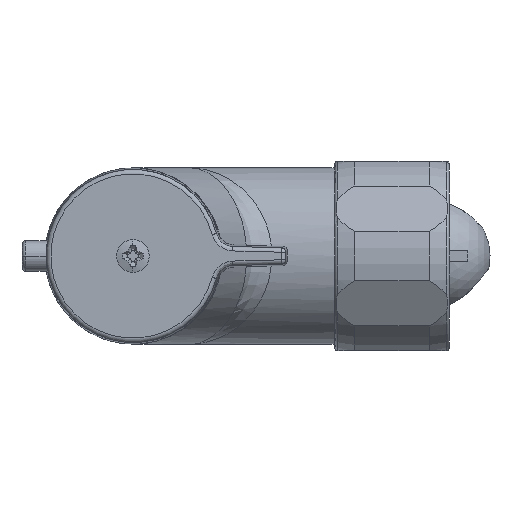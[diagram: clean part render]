
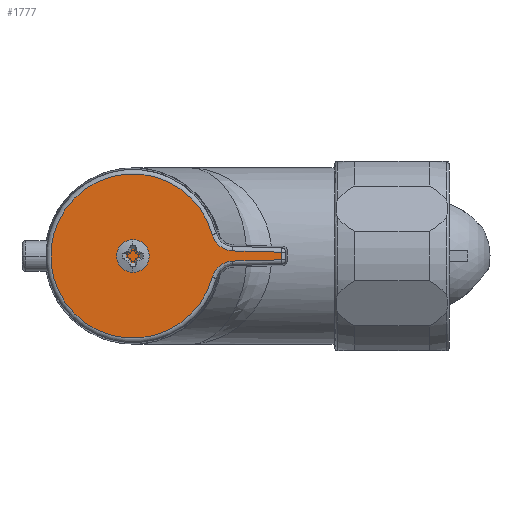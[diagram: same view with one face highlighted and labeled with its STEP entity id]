
A CAD part, left-side view. The second image highlights one B-rep face of the part: STEP entity #1777.
In plain terms, the highlighted planar face has unit normal (-1, 0, 0).
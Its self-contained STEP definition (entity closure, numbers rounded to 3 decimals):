
#1225=DIRECTION('',(0.,-1.,0.026));
#1226=VECTOR('',#1225,10.999);
#1227=CARTESIAN_POINT('',(-82.1,-22.683,
-1.151));
#1228=LINE('',#1227,#1226);
#1229=CARTESIAN_POINT('',(-82.1,-17.987,
-4.847));
#1230=CARTESIAN_POINT('',(-82.1,-18.055,
-4.594));
#1231=CARTESIAN_POINT('',(-82.1,-18.23,
-4.101));
#1232=CARTESIAN_POINT('',(-82.1,-18.615,
-3.395));
#1233=CARTESIAN_POINT('',(-82.1,-19.112,
-2.756));
#1234=CARTESIAN_POINT('',(-82.1,-19.708,
-2.203));
#1235=CARTESIAN_POINT('',(-82.1,-20.385,
-1.754));
#1236=CARTESIAN_POINT('',(-82.1,-21.123,
-1.421));
#1237=CARTESIAN_POINT('',(-82.1,-21.899,
-1.212));
#1238=CARTESIAN_POINT('',(-82.1,-22.42,
-1.158));
#1239=CARTESIAN_POINT('',(-82.1,-22.683,
-1.151));
#1241=CARTESIAN_POINT('',(-82.1,0.,0.));
#1242=DIRECTION('',(-1.,0.,0.));
#1243=DIRECTION('',(0.,-0.966,0.26));
#1244=AXIS2_PLACEMENT_3D('',#1241,#1242,#1243);
#1246=CARTESIAN_POINT('',(-82.1,-22.683,
1.151));
#1247=CARTESIAN_POINT('',(-82.1,-22.42,
1.158));
#1248=CARTESIAN_POINT('',(-82.1,-21.899,
1.212));
#1249=CARTESIAN_POINT('',(-82.1,-21.123,
1.421));
#1250=CARTESIAN_POINT('',(-82.1,-20.385,
1.754));
#1251=CARTESIAN_POINT('',(-82.1,-19.708,
2.203));
#1252=CARTESIAN_POINT('',(-82.1,-19.112,
2.756));
#1253=CARTESIAN_POINT('',(-82.1,-18.615,
3.395));
#1254=CARTESIAN_POINT('',(-82.1,-18.23,
4.101));
#1255=CARTESIAN_POINT('',(-82.1,-18.055,
4.594));
#1256=CARTESIAN_POINT('',(-82.1,-17.987,
4.847));
#1258=DIRECTION('',(0.,1.,0.026));
#1259=VECTOR('',#1258,10.999);
#1260=CARTESIAN_POINT('',(-82.1,-33.679,0.863));
#1261=LINE('',#1260,#1259);
#1262=DIRECTION('',(0.,0.,1.));
#1263=VECTOR('',#1262,1.726);
#1264=CARTESIAN_POINT('',(-82.1,-33.679,-0.863));
#1265=LINE('',#1264,#1263);
#1639=CARTESIAN_POINT('',(-82.1,-22.683,
-1.151));
#1640=CARTESIAN_POINT('',(-82.1,-33.679,-0.863));
#1641=VERTEX_POINT('',#1639);
#1642=VERTEX_POINT('',#1640);
#1647=VERTEX_POINT('',#1229);
#1649=CARTESIAN_POINT('',(-82.1,-17.987,4.847));
#1650=VERTEX_POINT('',#1649);
#1653=VERTEX_POINT('',#1246);
#1655=CARTESIAN_POINT('',(-82.1,-33.679,0.863));
#1656=VERTEX_POINT('',#1655);
#1758=CARTESIAN_POINT('',(-82.1,0.,0.));
#1759=DIRECTION('',(1.,0.,0.));
#1760=DIRECTION('',(0.,0.,-1.));
#1761=AXIS2_PLACEMENT_3D('',#1758,#1759,#1760);
#1762=PLANE('',#1761);
#1764=ORIENTED_EDGE('',*,*,#1763,.F.);
#1766=ORIENTED_EDGE('',*,*,#1765,.F.);
#1768=ORIENTED_EDGE('',*,*,#1767,.F.);
#1770=ORIENTED_EDGE('',*,*,#1769,.F.);
#1772=ORIENTED_EDGE('',*,*,#1771,.F.);
#1774=ORIENTED_EDGE('',*,*,#1773,.F.);
#1775=EDGE_LOOP('',(#1764,#1766,#1768,#1770,#1772,#1774));
#1776=FACE_OUTER_BOUND('',#1775,.F.);
#1777=ADVANCED_FACE('',(#1776),#1762,.F.);
#1240=B_SPLINE_CURVE_WITH_KNOTS('',3,(#1229,#1230,#1231,#1232,#1233,#1234,#1235,
#1236,#1237,#1238,#1239),.UNSPECIFIED.,.F.,.F.,(4,1,1,1,1,1,1,1,4),(0.,
0.125,0.25,0.375,0.5,0.625,0.75,0.875,1.),.UNSPECIFIED.);
#1245=CIRCLE('',#1244,18.629);
#1257=B_SPLINE_CURVE_WITH_KNOTS('',3,(#1246,#1247,#1248,#1249,#1250,#1251,#1252,
#1253,#1254,#1255,#1256),.UNSPECIFIED.,.F.,.F.,(4,1,1,1,1,1,1,1,4),(0.,
0.125,0.25,0.375,0.5,0.625,0.75,0.875,1.),.UNSPECIFIED.);
#1763=EDGE_CURVE('',#1641,#1642,#1228,.T.);
#1765=EDGE_CURVE('',#1647,#1641,#1240,.T.);
#1767=EDGE_CURVE('',#1650,#1647,#1245,.T.);
#1769=EDGE_CURVE('',#1653,#1650,#1257,.T.);
#1771=EDGE_CURVE('',#1656,#1653,#1261,.T.);
#1773=EDGE_CURVE('',#1642,#1656,#1265,.T.);
